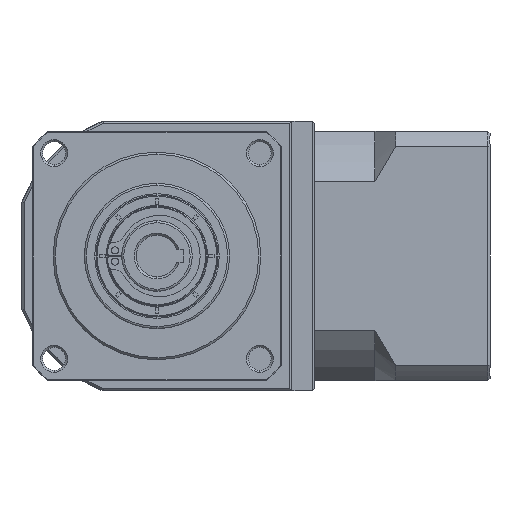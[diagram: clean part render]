
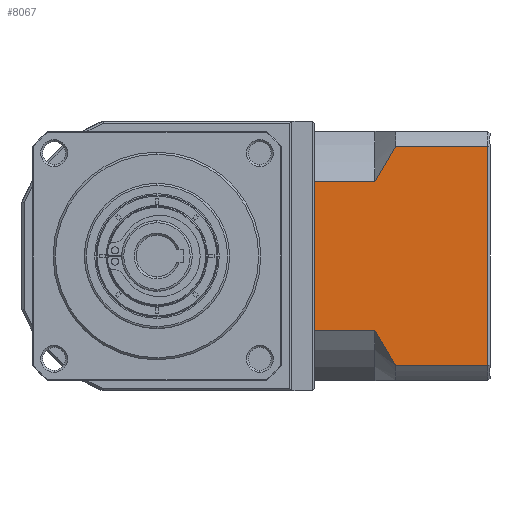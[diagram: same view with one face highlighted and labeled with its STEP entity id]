
A CAD part, left-side view. The second image highlights one B-rep face of the part: STEP entity #8067.
In plain terms, the highlighted planar face has unit normal (-1, 0, 0).
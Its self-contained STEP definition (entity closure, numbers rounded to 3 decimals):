
#3181 = ORIENTED_EDGE ( 'NONE', *, *, #48544, .T. ) ;
#5231 = CARTESIAN_POINT ( 'NONE',  ( -17.619, -82.091, -99.894 ) ) ;
#7049 = CARTESIAN_POINT ( 'NONE',  ( -17.619, -106.063, -153.613 ) ) ;
#7371 = CARTESIAN_POINT ( 'NONE',  ( -17.619, -78.863, -97.155 ) ) ;
#8067 = ADVANCED_FACE ( 'NONE', ( #40269 ), #77662, .F. ) ;
#9093 = ORIENTED_EDGE ( 'NONE', *, *, #95364, .F. ) ;
#9345 = VECTOR ( 'NONE', #109067, 1000. ) ;
#10157 = CARTESIAN_POINT ( 'NONE',  ( -17.619, -78.863, -141.64 ) ) ;
#14223 = VERTEX_POINT ( 'NONE', #99257 ) ;
#16409 = B_SPLINE_CURVE_WITH_KNOTS ( 'NONE', 3,
 ( #28680, #98618, #5231, #110303, #40435, #122062 ),
 .UNSPECIFIED., .F., .F.,
 ( 4, 2, 4 ),
 ( 0.052, 0.057, 0.062 ),
 .UNSPECIFIED. ) ;
#16545 = ORIENTED_EDGE ( 'NONE', *, *, #19522, .F. ) ;
#19063 = DIRECTION ( 'NONE',  ( 0., -1., 0. ) ) ;
#19224 = DIRECTION ( 'NONE',  ( 0., 0., 1. ) ) ;
#19522 = EDGE_CURVE ( 'NONE', #90933, #48605, #56695, .T. ) ;
#21139 = EDGE_CURVE ( 'NONE', #90933, #34379, #24308, .T. ) ;
#24308 = B_SPLINE_CURVE_WITH_KNOTS ( 'NONE', 3,
 ( #49040, #130133, #60208, #60719, #142369, #72447 ),
 .UNSPECIFIED., .F., .F.,
 ( 4, 2, 4 ),
 ( 0.1, 0.104, 0.109 ),
 .UNSPECIFIED. ) ;
#24513 = CARTESIAN_POINT ( 'NONE',  ( -17.619, -106.063, -150.07 ) ) ;
#28680 = CARTESIAN_POINT ( 'NONE',  ( -17.619, -83.863, -97.155 ) ) ;
#30980 = LINE ( 'NONE', #7049, #62044 ) ;
#34379 = VERTEX_POINT ( 'NONE', #35829 ) ;
#35179 = AXIS2_PLACEMENT_3D ( 'NONE', #66440, #148136, #78187 ) ;
#35829 = CARTESIAN_POINT ( 'NONE',  ( -17.619, -83.863, -150.07 ) ) ;
#38893 = VECTOR ( 'NONE', #55921, 1000. ) ;
#39203 = CARTESIAN_POINT ( 'NONE',  ( -17.619, -78.863, -105.585 ) ) ;
#40269 = FACE_OUTER_BOUND ( 'NONE', #113734, .T. ) ;
#40435 = CARTESIAN_POINT ( 'NONE',  ( -17.619, -79.611, -104.133 ) ) ;
#40763 = VECTOR ( 'NONE', #19063, 1000. ) ;
#41843 = EDGE_CURVE ( 'NONE', #14223, #48605, #51122, .T. ) ;
#44970 = CARTESIAN_POINT ( 'NONE',  ( -17.619, -64.363, -141.64 ) ) ;
#48544 = EDGE_CURVE ( 'NONE', #76297, #92322, #16409, .T. ) ;
#48605 = VERTEX_POINT ( 'NONE', #44970 ) ;
#49040 = CARTESIAN_POINT ( 'NONE',  ( -17.619, -78.863, -141.64 ) ) ;
#51122 = LINE ( 'NONE', #134835, #136879 ) ;
#55921 = DIRECTION ( 'NONE',  ( 0., 1., 0. ) ) ;
#56695 = LINE ( 'NONE', #116720, #118822 ) ;
#57291 = ORIENTED_EDGE ( 'NONE', *, *, #21139, .T. ) ;
#57860 = VERTEX_POINT ( 'NONE', #24513 ) ;
#58553 = DIRECTION ( 'NONE',  ( 0., 1., 0. ) ) ;
#60208 = CARTESIAN_POINT ( 'NONE',  ( -17.619, -80.414, -144.522 ) ) ;
#60719 = CARTESIAN_POINT ( 'NONE',  ( -17.619, -82.088, -147.327 ) ) ;
#62044 = VECTOR ( 'NONE', #19224, 1000. ) ;
#63700 = EDGE_CURVE ( 'NONE', #14223, #92322, #129904, .T. ) ;
#65348 = ORIENTED_EDGE ( 'NONE', *, *, #74886, .T. ) ;
#66440 = CARTESIAN_POINT ( 'NONE',  ( -17.619, -106.563, -153.613 ) ) ;
#68607 = ORIENTED_EDGE ( 'NONE', *, *, #41843, .T. ) ;
#72447 = CARTESIAN_POINT ( 'NONE',  ( -17.619, -83.863, -150.07 ) ) ;
#74886 = EDGE_CURVE ( 'NONE', #57860, #149388, #30980, .T. ) ;
#76297 = VERTEX_POINT ( 'NONE', #125930 ) ;
#77662 = PLANE ( 'NONE',  #35179 ) ;
#78187 = DIRECTION ( 'NONE',  ( 0., 1., 0. ) ) ;
#79835 = EDGE_CURVE ( 'NONE', #57860, #34379, #146655, .T. ) ;
#90933 = VERTEX_POINT ( 'NONE', #10157 ) ;
#92322 = VERTEX_POINT ( 'NONE', #111222 ) ;
#95054 = ORIENTED_EDGE ( 'NONE', *, *, #63700, .F. ) ;
#95364 = EDGE_CURVE ( 'NONE', #76297, #149388, #133858, .T. ) ;
#98618 = CARTESIAN_POINT ( 'NONE',  ( -17.619, -82.964, -98.515 ) ) ;
#99257 = CARTESIAN_POINT ( 'NONE',  ( -17.619, -64.363, -105.585 ) ) ;
#102406 = CARTESIAN_POINT ( 'NONE',  ( -17.619, -78.863, -150.07 ) ) ;
#106658 = ORIENTED_EDGE ( 'NONE', *, *, #79835, .F. ) ;
#109067 = DIRECTION ( 'NONE',  ( 0., -1., 0. ) ) ;
#110303 = CARTESIAN_POINT ( 'NONE',  ( -17.619, -80.415, -102.701 ) ) ;
#111222 = CARTESIAN_POINT ( 'NONE',  ( -17.619, -78.863, -105.585 ) ) ;
#113734 = EDGE_LOOP ( 'NONE', ( #106658, #65348, #9093, #3181, #95054, #68607, #16545, #57291 ) ) ;
#114246 = CARTESIAN_POINT ( 'NONE',  ( -17.619, -106.063, -97.155 ) ) ;
#116720 = CARTESIAN_POINT ( 'NONE',  ( -17.619, -78.863, -141.64 ) ) ;
#118822 = VECTOR ( 'NONE', #58553, 1000. ) ;
#122062 = CARTESIAN_POINT ( 'NONE',  ( -17.619, -78.863, -105.585 ) ) ;
#125930 = CARTESIAN_POINT ( 'NONE',  ( -17.619, -83.863, -97.155 ) ) ;
#129904 = LINE ( 'NONE', #39203, #9345 ) ;
#130133 = CARTESIAN_POINT ( 'NONE',  ( -17.619, -79.614, -143.097 ) ) ;
#133858 = LINE ( 'NONE', #7371, #40763 ) ;
#134835 = CARTESIAN_POINT ( 'NONE',  ( -17.619, -64.363, -153.613 ) ) ;
#135327 = DIRECTION ( 'NONE',  ( 0., 0., -1. ) ) ;
#136879 = VECTOR ( 'NONE', #135327, 1000. ) ;
#142369 = CARTESIAN_POINT ( 'NONE',  ( -17.619, -82.962, -148.707 ) ) ;
#146655 = LINE ( 'NONE', #102406, #38893 ) ;
#148136 = DIRECTION ( 'NONE',  ( 1., 0., 0. ) ) ;
#149388 = VERTEX_POINT ( 'NONE', #114246 ) ;
